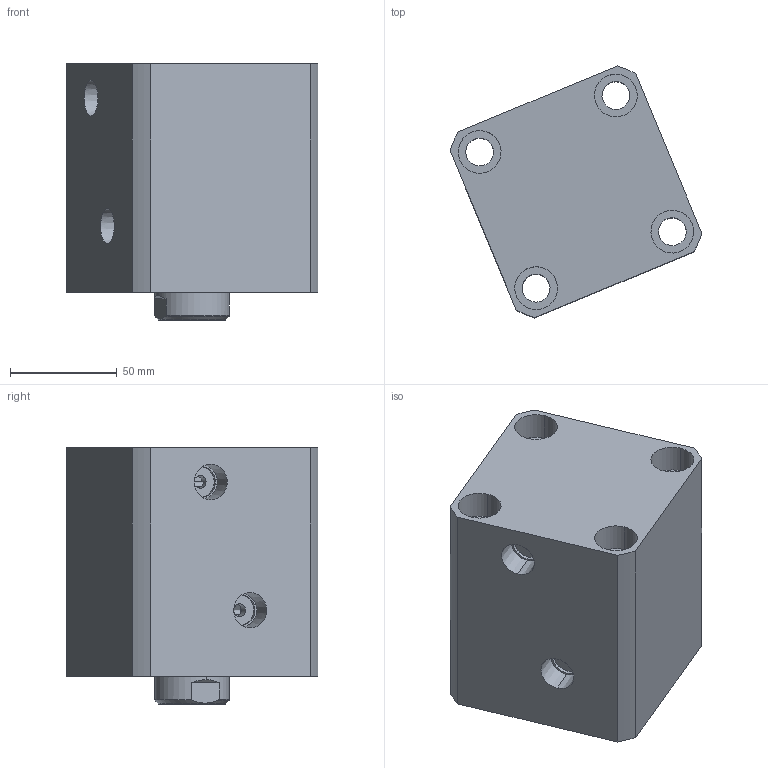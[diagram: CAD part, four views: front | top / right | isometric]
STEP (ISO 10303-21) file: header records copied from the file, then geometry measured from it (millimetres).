
FILE_DESCRIPTION (( 'STEP AP214' ), '1' );
FILE_NAME ('chtb-sd63x40n_asm.STEP', '2018-05-10T02:02:27', ( 'Windows' ), ( 'Microsoft' ), 'SwSTEP 2.0', 'SolidWorks 2015', '' );
FILE_SCHEMA (( 'AUTOMOTIVE_DESIGN' ));
Length unit declared in the file: millimetre
Products named in the file (4): CHTB63X40NHSG; CHTB63X40NBT; CHTB-63QG; chtb-sd63x40n_asm
Assembly tree (3 placements, depth 2):
  chtb-sd63x40n_asm
    CHTB-63QG
    CHTB63X40NBT
    CHTB63X40NHSG
Bounding box: 117.81 x 117.81 x 120 mm (x, y, z)
Volume: 772698.3 mm3; surface area: 136207.4 mm2
Topology: 3 solids, 3 shells, 165 faces, 465 edges, 318 vertices
Faces by surface type: cylinder 101, plane 33, bspline 12, cone 12, torus 7
Entity records: 17638 total; most frequent: CARTESIAN_POINT 13505, ORIENTED_EDGE 918, DIRECTION 719, EDGE_CURVE 459, VERTEX_POINT 318, AXIS2_PLACEMENT_3D 291, EDGE_LOOP 197, ADVANCED_FACE 165
